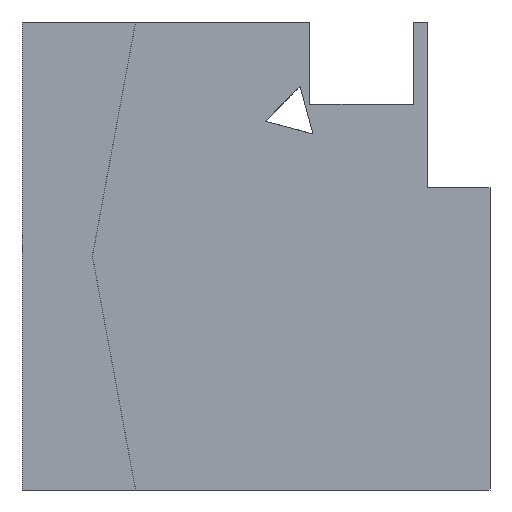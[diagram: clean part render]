
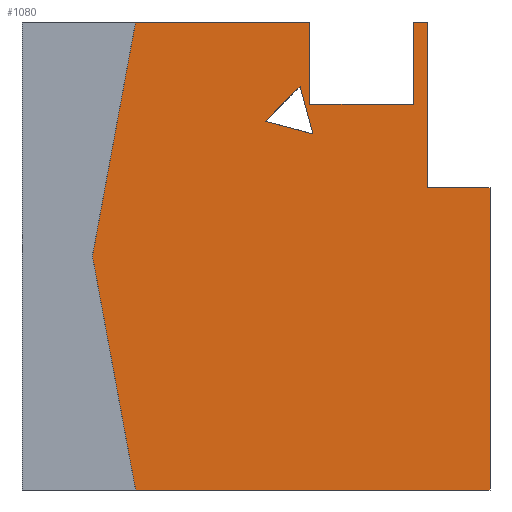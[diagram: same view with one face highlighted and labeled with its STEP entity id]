
A CAD part, left-side view. The second image highlights one B-rep face of the part: STEP entity #1080.
In plain terms, the highlighted planar face has unit normal (-1, 0, 0).
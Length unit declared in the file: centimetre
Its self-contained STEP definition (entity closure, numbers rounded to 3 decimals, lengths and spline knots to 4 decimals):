
#2 = CARTESIAN_POINT ( 'NONE',  ( 0., 384.8546, 823.7826 ) ) ;
#19 = EDGE_CURVE ( 'NONE', #360, #1059, #1128, .T. ) ;
#56 = EDGE_CURVE ( 'NONE', #600, #964, #195, .T. ) ;
#57 = CARTESIAN_POINT ( 'NONE',  ( 0., 1000., 1000. ) ) ;
#86 = DIRECTION ( 'NONE',  ( 0., 0., -1. ) ) ;
#91 = LINE ( 'NONE', #1010, #100 ) ;
#93 = LINE ( 'NONE', #1032, #500 ) ;
#98 = VERTEX_POINT ( 'NONE', #1202 ) ;
#99 = ORIENTED_EDGE ( 'NONE', *, *, #380, .T. ) ;
#100 = VECTOR ( 'NONE', #356, 100. ) ;
#123 = DIRECTION ( 'NONE',  ( 0., -1., 0. ) ) ;
#151 = VERTEX_POINT ( 'NONE', #906 ) ;
#194 = ORIENTED_EDGE ( 'NONE', *, *, #572, .F. ) ;
#195 = LINE ( 'NONE', #485, #662 ) ;
#215 = CARTESIAN_POINT ( 'NONE',  ( 0., 1000., 0. ) ) ;
#222 = VECTOR ( 'NONE', #556, 100. ) ;
#230 = VERTEX_POINT ( 'NONE', #913 ) ;
#237 = FACE_OUTER_BOUND ( 'NONE', #318, .T. ) ;
#251 = VECTOR ( 'NONE', #838, 100. ) ;
#254 = LINE ( 'NONE', #57, #415 ) ;
#257 = CARTESIAN_POINT ( 'NONE',  ( 0., 757.2812, 1000. ) ) ;
#270 = CARTESIAN_POINT ( 'NONE',  ( 0., 384.8546, 823.7826 ) ) ;
#293 = DIRECTION ( 'NONE',  ( 0., -1., 0. ) ) ;
#294 = CARTESIAN_POINT ( 'NONE',  ( 0., 0., 0. ) ) ;
#295 = EDGE_CURVE ( 'NONE', #98, #151, #474, .T. ) ;
#300 = EDGE_CURVE ( 'NONE', #840, #1159, #1124, .T. ) ;
#302 = VERTEX_POINT ( 'NONE', #938 ) ;
#317 = LINE ( 'NONE', #783, #701 ) ;
#318 = EDGE_LOOP ( 'NONE', ( #194, #720, #545, #472, #738, #521, #383, #727, #846, #1092, #1052 ) ) ;
#327 = LINE ( 'NONE', #257, #540 ) ;
#336 = VERTEX_POINT ( 'NONE', #2 ) ;
#356 = DIRECTION ( 'NONE',  ( 0., -1., 0. ) ) ;
#359 = LINE ( 'NONE', #270, #222 ) ;
#360 = VERTEX_POINT ( 'NONE', #763 ) ;
#365 = CARTESIAN_POINT ( 'NONE',  ( 0., 384.8546, 1000. ) ) ;
#380 = EDGE_CURVE ( 'NONE', #479, #302, #462, .T. ) ;
#382 = VECTOR ( 'NONE', #932, 100. ) ;
#383 = ORIENTED_EDGE ( 'NONE', *, *, #300, .F. ) ;
#397 = CARTESIAN_POINT ( 'NONE',  ( 0., 133.5985, 1000. ) ) ;
#411 = VERTEX_POINT ( 'NONE', #397 ) ;
#415 = VECTOR ( 'NONE', #617, 100. ) ;
#430 = CARTESIAN_POINT ( 'NONE',  ( 0., 133.5985, 645.3517 ) ) ;
#438 = DIRECTION ( 'NONE',  ( 0., 0., -1. ) ) ;
#462 = LINE ( 'NONE', #657, #251 ) ;
#463 = FACE_BOUND ( 'NONE', #654, .T. ) ;
#472 = ORIENTED_EDGE ( 'NONE', *, *, #1127, .F. ) ;
#474 = LINE ( 'NONE', #946, #644 ) ;
#479 = VERTEX_POINT ( 'NONE', #959 ) ;
#485 = CARTESIAN_POINT ( 'NONE',  ( 0., 1000., 1000. ) ) ;
#487 = VECTOR ( 'NONE', #678, 100. ) ;
#500 = VECTOR ( 'NONE', #1122, 100. ) ;
#521 = ORIENTED_EDGE ( 'NONE', *, *, #525, .T. ) ;
#525 = EDGE_CURVE ( 'NONE', #98, #1159, #588, .T. ) ;
#535 = CARTESIAN_POINT ( 'NONE',  ( 0., 1000., 1000. ) ) ;
#540 = VECTOR ( 'NONE', #703, 100. ) ;
#545 = ORIENTED_EDGE ( 'NONE', *, *, #56, .F. ) ;
#553 = VECTOR ( 'NONE', #123, 100. ) ;
#556 = DIRECTION ( 'NONE',  ( 0., 0., -1. ) ) ;
#557 = EDGE_CURVE ( 'NONE', #302, #230, #594, .T. ) ;
#572 = EDGE_CURVE ( 'NONE', #336, #360, #317, .T. ) ;
#577 = CARTESIAN_POINT ( 'NONE',  ( 0., 0., 1000. ) ) ;
#580 = DIRECTION ( 'NONE',  ( 0., 0., 1. ) ) ;
#588 = LINE ( 'NONE', #215, #553 ) ;
#594 = LINE ( 'NONE', #881, #487 ) ;
#600 = VERTEX_POINT ( 'NONE', #973 ) ;
#617 = DIRECTION ( 'NONE',  ( 0., -1., 0. ) ) ;
#622 = VECTOR ( 'NONE', #86, 100. ) ;
#644 = VECTOR ( 'NONE', #1041, 100. ) ;
#654 = EDGE_LOOP ( 'NONE', ( #683, #99, #798 ) ) ;
#657 = CARTESIAN_POINT ( 'NONE',  ( 0., 480.353, 788.0041 ) ) ;
#662 = VECTOR ( 'NONE', #293, 100. ) ;
#678 = DIRECTION ( 'NONE',  ( 0., -0.707, 0.707 ) ) ;
#683 = ORIENTED_EDGE ( 'NONE', *, *, #984, .T. ) ;
#691 = AXIS2_PLACEMENT_3D ( 'NONE', #535, #1000, #438 ) ;
#701 = VECTOR ( 'NONE', #1158, 100. ) ;
#703 = DIRECTION ( 'NONE',  ( 0., -0.181, 0.983 ) ) ;
#720 = ORIENTED_EDGE ( 'NONE', *, *, #1070, .F. ) ;
#727 = ORIENTED_EDGE ( 'NONE', *, *, #935, .F. ) ;
#738 = ORIENTED_EDGE ( 'NONE', *, *, #295, .F. ) ;
#746 = CARTESIAN_POINT ( 'NONE',  ( 0., 0., 645.3517 ) ) ;
#763 = CARTESIAN_POINT ( 'NONE',  ( 0., 163.9971, 823.7826 ) ) ;
#774 = EDGE_CURVE ( 'NONE', #1059, #411, #254, .T. ) ;
#783 = CARTESIAN_POINT ( 'NONE',  ( 0., 163.9971, 823.7826 ) ) ;
#798 = ORIENTED_EDGE ( 'NONE', *, *, #557, .T. ) ;
#838 = DIRECTION ( 'NONE',  ( 0., 0.966, 0.258 ) ) ;
#840 = VERTEX_POINT ( 'NONE', #746 ) ;
#844 = VECTOR ( 'NONE', #580, 100. ) ;
#845 = CARTESIAN_POINT ( 'NONE',  ( 0., 133.5985, 645.3517 ) ) ;
#846 = ORIENTED_EDGE ( 'NONE', *, *, #993, .T. ) ;
#881 = CARTESIAN_POINT ( 'NONE',  ( 0., 405.8849, 862.4723 ) ) ;
#906 = CARTESIAN_POINT ( 'NONE',  ( 0., 849.5201, 500. ) ) ;
#913 = CARTESIAN_POINT ( 'NONE',  ( 0., 405.8849, 862.4723 ) ) ;
#932 = DIRECTION ( 'NONE',  ( 0., 0., 1. ) ) ;
#935 = EDGE_CURVE ( 'NONE', #1137, #840, #91, .T. ) ;
#938 = CARTESIAN_POINT ( 'NONE',  ( 0., 480.353, 788.0041 ) ) ;
#946 = CARTESIAN_POINT ( 'NONE',  ( 0., 849.5201, 500. ) ) ;
#959 = CARTESIAN_POINT ( 'NONE',  ( 0., 378.5427, 760.7697 ) ) ;
#964 = VERTEX_POINT ( 'NONE', #365 ) ;
#973 = CARTESIAN_POINT ( 'NONE',  ( 0., 757.2812, 1000. ) ) ;
#984 = EDGE_CURVE ( 'NONE', #230, #479, #93, .T. ) ;
#993 = EDGE_CURVE ( 'NONE', #1137, #411, #1118, .T. ) ;
#1000 = DIRECTION ( 'NONE',  ( 1., 0., 0. ) ) ;
#1010 = CARTESIAN_POINT ( 'NONE',  ( 0., 133.5985, 645.3517 ) ) ;
#1032 = CARTESIAN_POINT ( 'NONE',  ( 0., 378.5427, 760.7697 ) ) ;
#1041 = DIRECTION ( 'NONE',  ( 0., 0.181, 0.983 ) ) ;
#1052 = ORIENTED_EDGE ( 'NONE', *, *, #19, .F. ) ;
#1059 = VERTEX_POINT ( 'NONE', #1111 ) ;
#1070 = EDGE_CURVE ( 'NONE', #964, #336, #359, .T. ) ;
#1073 = CARTESIAN_POINT ( 'NONE',  ( 0., 163.9971, 823.7826 ) ) ;
#1080 = ADVANCED_FACE ( 'NONE', ( #463, #237 ), #1090, .F. ) ;
#1090 = PLANE ( 'NONE',  #691 ) ;
#1092 = ORIENTED_EDGE ( 'NONE', *, *, #774, .F. ) ;
#1111 = CARTESIAN_POINT ( 'NONE',  ( 0., 163.9971, 1000. ) ) ;
#1118 = LINE ( 'NONE', #845, #382 ) ;
#1122 = DIRECTION ( 'NONE',  ( 0., -0.26, -0.966 ) ) ;
#1124 = LINE ( 'NONE', #577, #622 ) ;
#1127 = EDGE_CURVE ( 'NONE', #151, #600, #327, .T. ) ;
#1128 = LINE ( 'NONE', #1073, #844 ) ;
#1137 = VERTEX_POINT ( 'NONE', #430 ) ;
#1158 = DIRECTION ( 'NONE',  ( 0., -1., 0. ) ) ;
#1159 = VERTEX_POINT ( 'NONE', #294 ) ;
#1202 = CARTESIAN_POINT ( 'NONE',  ( 0., 757.2812, 0. ) ) ;
